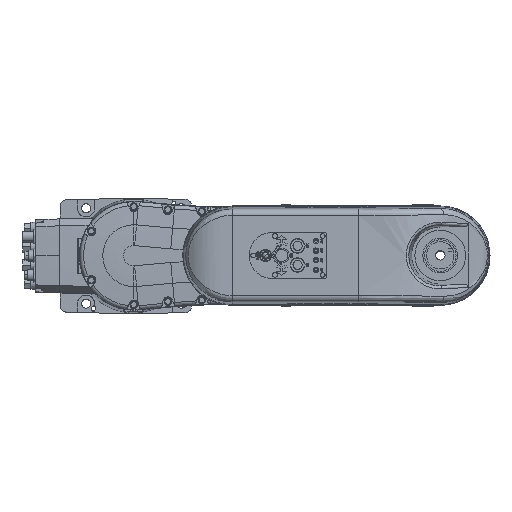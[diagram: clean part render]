
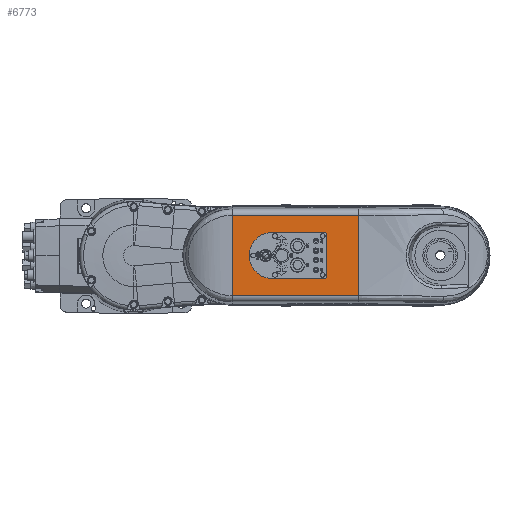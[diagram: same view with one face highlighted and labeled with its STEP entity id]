
A CAD part, top view. The second image highlights one B-rep face of the part: STEP entity #6773.
In plain terms, the highlighted planar face has unit normal (0, 0, 1).
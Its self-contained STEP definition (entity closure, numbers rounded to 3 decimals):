
#21 = ORIENTED_EDGE ( 'NONE', *, *, #57646, .F. ) ;
#1233 = CARTESIAN_POINT ( 'NONE',  ( 203.5, -34., 457.7 ) ) ;
#1242 = ORIENTED_EDGE ( 'NONE', *, *, #14734, .F. ) ;
#1468 = EDGE_CURVE ( 'NONE', #55313, #7626, #12918, .T. ) ;
#2544 =( BOUNDED_CURVE ( )  B_SPLINE_CURVE ( 3, ( #22947, #50859, #9285, #23247 ),
 .UNSPECIFIED., .F., .F. ) 
 B_SPLINE_CURVE_WITH_KNOTS ( ( 4, 4 ),
 ( 2.357, 3.927 ),
 .UNSPECIFIED. ) 
 CURVE ( )  GEOMETRIC_REPRESENTATION_ITEM ( )  RATIONAL_B_SPLINE_CURVE ( ( 1., 0.805, 0.805, 1. ) ) 
 REPRESENTATION_ITEM ( '' )  );
#3376 = CARTESIAN_POINT ( 'NONE',  ( 282.5, 32.001, 457.7 ) ) ;
#3441 = EDGE_CURVE ( 'NONE', #78944, #26397, #68509, .T. ) ;
#4562 = EDGE_CURVE ( 'NONE', #76762, #78944, #14128, .T. ) ;
#6028 = DIRECTION ( 'NONE',  ( 0., 1., 0. ) ) ;
#6766 = FACE_OUTER_BOUND ( 'NONE', #44439, .T. ) ;
#6773 = ADVANCED_FACE ( 'NONE', ( #6766, #79407 ), #36120, .T. ) ;
#6851 = VECTOR ( 'NONE', #10594, 1000. ) ;
#7374 = DIRECTION ( 'NONE',  ( 1., 0., 0. ) ) ;
#7626 = VERTEX_POINT ( 'NONE', #66945 ) ;
#8340 = ORIENTED_EDGE ( 'NONE', *, *, #4562, .T. ) ;
#9285 = CARTESIAN_POINT ( 'NONE',  ( 281.672, -34., 457.7 ) ) ;
#10454 = VECTOR ( 'NONE', #27389, 1000. ) ;
#10492 = CARTESIAN_POINT ( 'NONE',  ( 282.5, 34., 457.7 ) ) ;
#10594 = DIRECTION ( 'NONE',  ( 1., 0., 0. ) ) ;
#12467 = CARTESIAN_POINT ( 'NONE',  ( 330., -59.156, 457.7 ) ) ;
#12726 = CARTESIAN_POINT ( 'NONE',  ( 330., -705.455, 457.7 ) ) ;
#12918 =( BOUNDED_CURVE ( )  B_SPLINE_CURVE ( 3, ( #86339, #59441, #38278, #3376 ),
 .UNSPECIFIED., .F., .F. ) 
 B_SPLINE_CURVE_WITH_KNOTS ( ( 4, 4 ),
 ( 2.357, 3.927 ),
 .UNSPECIFIED. ) 
 CURVE ( )  GEOMETRIC_REPRESENTATION_ITEM ( )  RATIONAL_B_SPLINE_CURVE ( ( 1., 0.805, 0.805, 1. ) ) 
 REPRESENTATION_ITEM ( '' )  );
#14128 = LINE ( 'NONE', #12726, #34757 ) ;
#14734 = EDGE_CURVE ( 'NONE', #55313, #25087, #31237, .T. ) ;
#17479 = CARTESIAN_POINT ( 'NONE',  ( 282.5, -32.001, 457.7 ) ) ;
#17740 = ORIENTED_EDGE ( 'NONE', *, *, #1468, .T. ) ;
#18678 = EDGE_CURVE ( 'NONE', #72960, #76762, #25302, .T. ) ;
#19684 = EDGE_LOOP ( 'NONE', ( #1242, #17740, #32428, #71647, #25242, #51795 ) ) ;
#20303 = CARTESIAN_POINT ( 'NONE',  ( 203.5, 34., 457.7 ) ) ;
#21164 = VERTEX_POINT ( 'NONE', #17479 ) ;
#22199 = CARTESIAN_POINT ( 'NONE',  ( 282.5, -34., 457.7 ) ) ;
#22947 = CARTESIAN_POINT ( 'NONE',  ( 282.5, -32.001, 457.7 ) ) ;
#23247 = CARTESIAN_POINT ( 'NONE',  ( 280.501, -34., 457.7 ) ) ;
#25087 = VERTEX_POINT ( 'NONE', #20303 ) ;
#25242 = ORIENTED_EDGE ( 'NONE', *, *, #67422, .F. ) ;
#25302 = LINE ( 'NONE', #45962, #6851 ) ;
#25794 = DIRECTION ( 'NONE',  ( -1., 0., 0. ) ) ;
#26397 = VERTEX_POINT ( 'NONE', #60445 ) ;
#27389 = DIRECTION ( 'NONE',  ( 0., 1., 0. ) ) ;
#28918 = LINE ( 'NONE', #61604, #10454 ) ;
#29221 = DIRECTION ( 'NONE',  ( 0., 1., 0. ) ) ;
#30992 = ORIENTED_EDGE ( 'NONE', *, *, #18678, .T. ) ;
#31237 = LINE ( 'NONE', #10492, #36624 ) ;
#32428 = ORIENTED_EDGE ( 'NONE', *, *, #81811, .F. ) ;
#34586 = LINE ( 'NONE', #48013, #50832 ) ;
#34757 = VECTOR ( 'NONE', #6028, 1000. ) ;
#36120 = PLANE ( 'NONE',  #55331 ) ;
#36624 = VECTOR ( 'NONE', #57807, 1000. ) ;
#37660 = CARTESIAN_POINT ( 'NONE',  ( 145., -59.156, 457.7 ) ) ;
#38278 = CARTESIAN_POINT ( 'NONE',  ( 282.5, 33.172, 457.7 ) ) ;
#40045 = CARTESIAN_POINT ( 'NONE',  ( 145., 59.156, 457.7 ) ) ;
#41017 = DIRECTION ( 'NONE',  ( 0., 1., 0. ) ) ;
#44439 = EDGE_LOOP ( 'NONE', ( #8340, #51316, #21, #30992 ) ) ;
#45962 = CARTESIAN_POINT ( 'NONE',  ( 330., -59.156, 457.7 ) ) ;
#48013 = CARTESIAN_POINT ( 'NONE',  ( 145., -705.242, 457.7 ) ) ;
#50832 = VECTOR ( 'NONE', #41017, 1000. ) ;
#50859 = CARTESIAN_POINT ( 'NONE',  ( 282.5, -33.172, 457.7 ) ) ;
#51138 = EDGE_CURVE ( 'NONE', #21164, #85890, #2544, .T. ) ;
#51316 = ORIENTED_EDGE ( 'NONE', *, *, #3441, .T. ) ;
#51472 = CARTESIAN_POINT ( 'NONE',  ( 280.501, 34., 457.7 ) ) ;
#51795 = ORIENTED_EDGE ( 'NONE', *, *, #75243, .F. ) ;
#53253 = CIRCLE ( 'NONE', #54298, 34. ) ;
#54298 = AXIS2_PLACEMENT_3D ( 'NONE', #70704, #84299, #29221 ) ;
#55313 = VERTEX_POINT ( 'NONE', #51472 ) ;
#55331 = AXIS2_PLACEMENT_3D ( 'NONE', #63636, #78422, #85379 ) ;
#57646 = EDGE_CURVE ( 'NONE', #72960, #26397, #34586, .T. ) ;
#57807 = DIRECTION ( 'NONE',  ( -1., 0., 0. ) ) ;
#59441 = CARTESIAN_POINT ( 'NONE',  ( 281.672, 34., 457.7 ) ) ;
#60365 = CARTESIAN_POINT ( 'NONE',  ( 280.501, -34., 457.7 ) ) ;
#60445 = CARTESIAN_POINT ( 'NONE',  ( 145., 59.156, 457.7 ) ) ;
#61604 = CARTESIAN_POINT ( 'NONE',  ( 282.5, 34., 457.7 ) ) ;
#63623 = VECTOR ( 'NONE', #7374, 1000. ) ;
#63636 = CARTESIAN_POINT ( 'NONE',  ( 145., 0., 457.7 ) ) ;
#64171 = VECTOR ( 'NONE', #25794, 1000. ) ;
#66945 = CARTESIAN_POINT ( 'NONE',  ( 282.5, 32.001, 457.7 ) ) ;
#67422 = EDGE_CURVE ( 'NONE', #83944, #85890, #70138, .T. ) ;
#68509 = LINE ( 'NONE', #40045, #64171 ) ;
#70138 = LINE ( 'NONE', #22199, #63623 ) ;
#70704 = CARTESIAN_POINT ( 'NONE',  ( 203.5, 0., 457.7 ) ) ;
#71647 = ORIENTED_EDGE ( 'NONE', *, *, #51138, .T. ) ;
#72960 = VERTEX_POINT ( 'NONE', #37660 ) ;
#75243 = EDGE_CURVE ( 'NONE', #25087, #83944, #53253, .T. ) ;
#76762 = VERTEX_POINT ( 'NONE', #12467 ) ;
#78422 = DIRECTION ( 'NONE',  ( 0., 0., 1. ) ) ;
#78944 = VERTEX_POINT ( 'NONE', #82900 ) ;
#79407 = FACE_BOUND ( 'NONE', #19684, .T. ) ;
#81811 = EDGE_CURVE ( 'NONE', #21164, #7626, #28918, .T. ) ;
#82900 = CARTESIAN_POINT ( 'NONE',  ( 330., 59.156, 457.7 ) ) ;
#83944 = VERTEX_POINT ( 'NONE', #1233 ) ;
#84299 = DIRECTION ( 'NONE',  ( 0., 0., 1. ) ) ;
#85379 = DIRECTION ( 'NONE',  ( 0., -1., 0. ) ) ;
#85890 = VERTEX_POINT ( 'NONE', #60365 ) ;
#86339 = CARTESIAN_POINT ( 'NONE',  ( 280.501, 34., 457.7 ) ) ;
